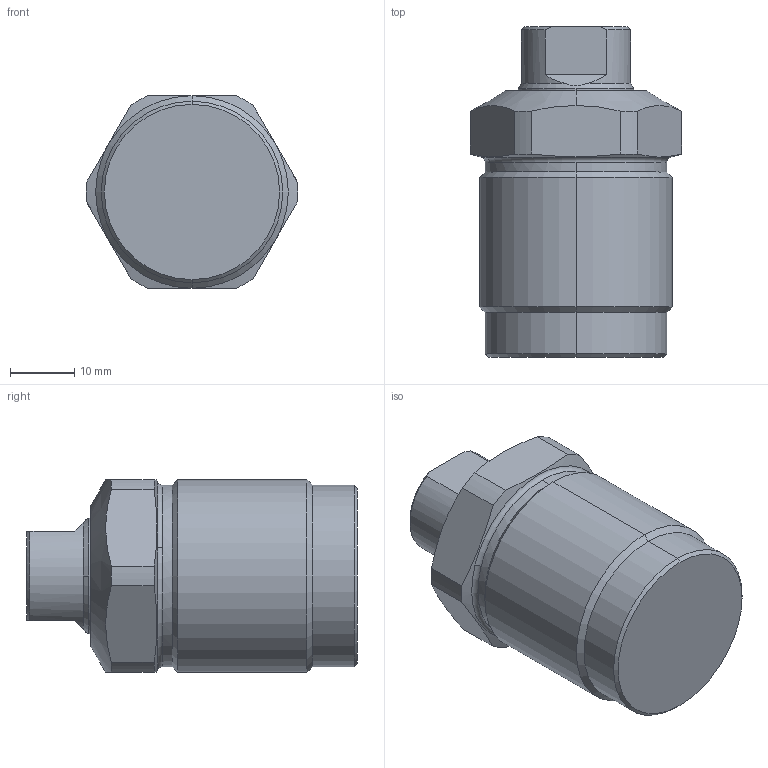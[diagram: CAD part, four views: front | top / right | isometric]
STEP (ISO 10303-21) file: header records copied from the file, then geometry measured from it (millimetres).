
FILE_DESCRIPTION((' '),'2;1');
FILE_NAME( 'TGM06-10.X_T.stp', '2024-08-27T13:43:50', (' '), ('--- Datakit www.datakit.com---'), ' Datakit CrossCadWare V2024.1 Dec 21 2023', 'Mastercam 2025', ' ');
FILE_SCHEMA(('AUTOMOTIVE_DESIGN { 1 0 10303 214 1 1 1 1 }'));
Length unit declared in the file: millimetre
Products named in the file (1): TGM06-10
Bounding box: 32.98 x 51.5 x 30 mm (x, y, z)
Volume: 29944.7 mm3; surface area: 7777.7 mm2
Topology: 2 solids, 2 shells, 58 faces, 142 edges, 89 vertices
Faces by surface type: cylinder 22, cone 18, plane 16, torus 2
Entity records: 1820 total; most frequent: CARTESIAN_POINT 416, DIRECTION 308, ORIENTED_EDGE 280, EDGE_CURVE 140, AXIS2_PLACEMENT_3D 129, VERTEX_POINT 89, CIRCLE 64, EDGE_LOOP 61
